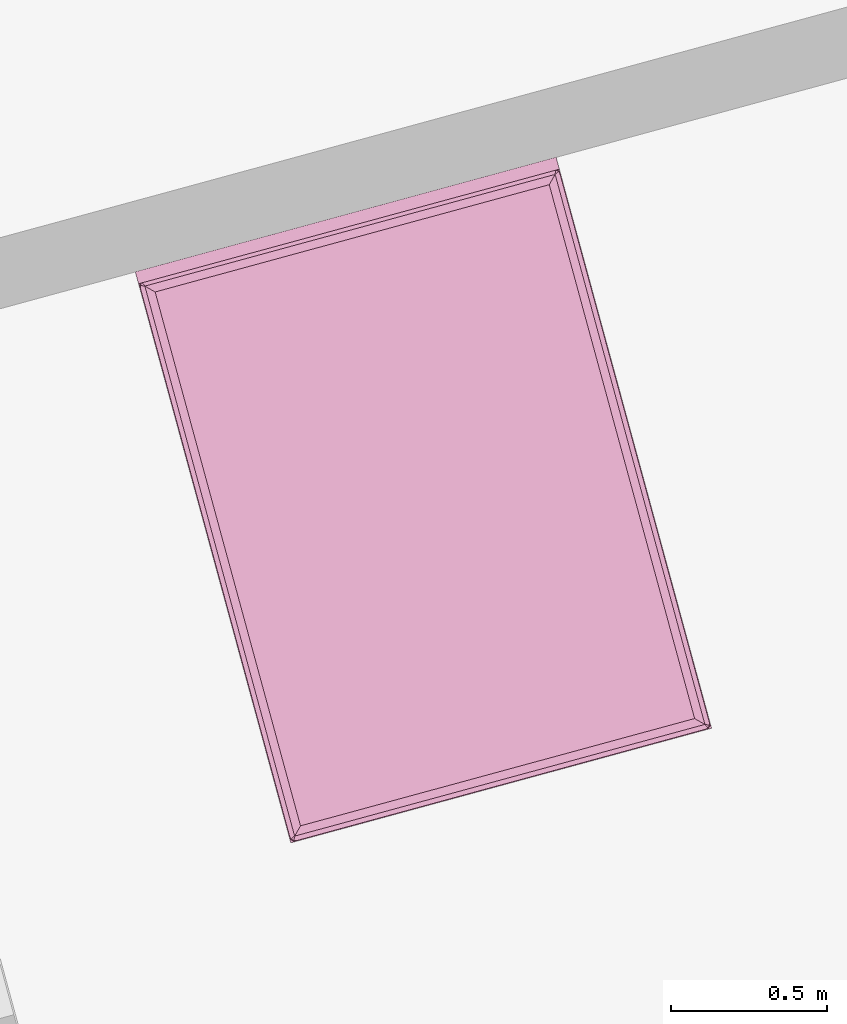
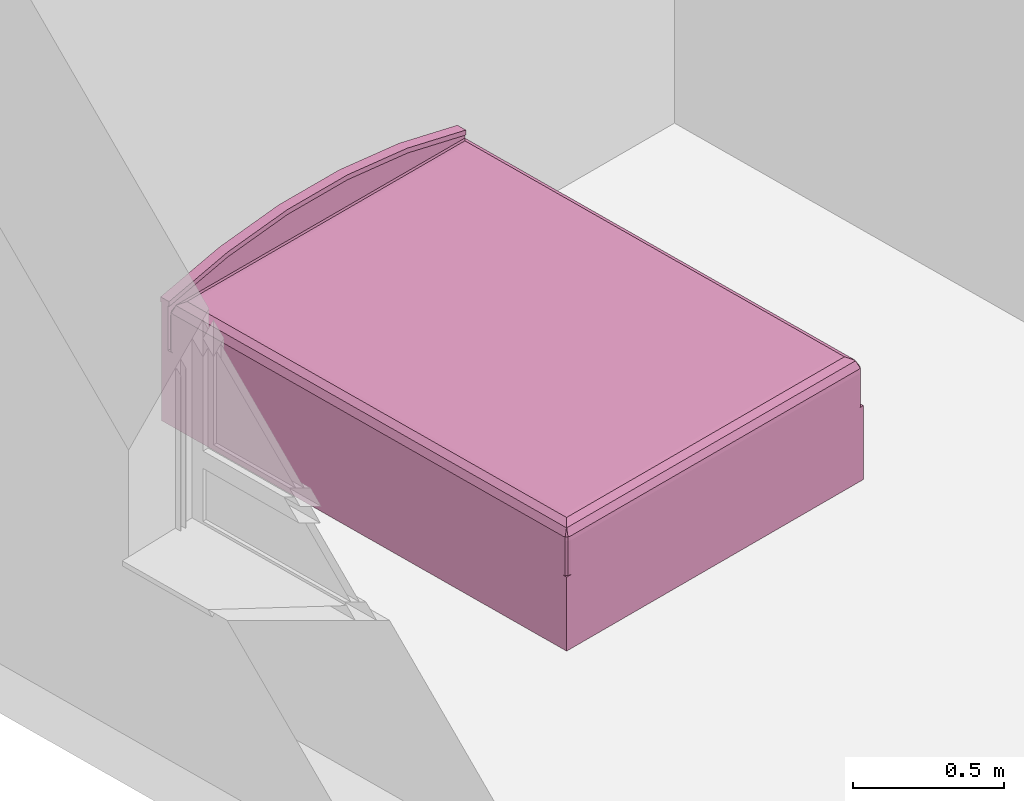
# One storey, part 161 of 195: 1 furnishing.
"""IFC2X3 building model written with IfcOpenShell, lengths in metres."""

from ifc_helpers import new_model, entity, si_unit, converted_unit, derived_unit, money_unit, direction, frame, origin_with_axes, place, context, subcontext, project, spatial, faceted_brep, source, transform, mapped, type_object, element, save


model = new_model("IFC2X3")

# Units and contexts
model_context = context("Model", 3, precision=1e-05, world=origin_with_axes(), true_north=direction((0.0, 1.0)))
body_context = subcontext(model_context, "Body", "Model", "MODEL_VIEW")
ifc_project = project(units=[si_unit("LENGTHUNIT", "METRE"), si_unit("AREAUNIT", "SQUARE_METRE"), si_unit("VOLUMEUNIT", "CUBIC_METRE"), converted_unit("PLANEANGLEUNIT", "DEGREE", entity("IfcPlaneAngleMeasure", 0.0174532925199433), si_unit("PLANEANGLEUNIT", "RADIAN"), dimensions=[0, 0, 0, 0, 0, 0, 0]), money_unit("CHF"), converted_unit("TIMEUNIT", "Year", entity("IfcTimeMeasure", 31557600.0), si_unit("TIMEUNIT", "SECOND"), dimensions=[0, 0, 1, 0, 0, 0, 0]), si_unit("MASSUNIT", "GRAM", prefix="KILO"), si_unit("THERMODYNAMICTEMPERATUREUNIT", "DEGREE_CELSIUS"), si_unit("LUMINOUSINTENSITYUNIT", "LUMEN"), si_unit("ENERGYUNIT", "JOULE", prefix="MEGA"), derived_unit("THERMALCONDUCTANCEUNIT", [(si_unit("POWERUNIT", "WATT"), 1), (si_unit("LENGTHUNIT", "METRE"), -1), (si_unit("THERMODYNAMICTEMPERATUREUNIT", "KELVIN"), -1)]), derived_unit("SPECIFICHEATCAPACITYUNIT", [(si_unit("ENERGYUNIT", "JOULE"), 1), (si_unit("MASSUNIT", "GRAM", prefix="KILO"), -1), (si_unit("THERMODYNAMICTEMPERATUREUNIT", "KELVIN"), -1)]), derived_unit("MASSDENSITYUNIT", [(si_unit("MASSUNIT", "GRAM", prefix="KILO"), 1), (si_unit("VOLUMEUNIT", "CUBIC_METRE"), -1)])], contexts=[model_context])

# Site, building, storey
site_placement = place(None, origin_with_axes())
site = spatial("IfcSite", under=ifc_project, at=site_placement, Name="Site", CompositionType="ELEMENT")
building_placement = place(site_placement, origin_with_axes())
building = spatial("IfcBuilding", under=site, at=building_placement, Name="Bâtiment", CompositionType="ELEMENT")
storey_placement = place(building_placement, origin_with_axes())
storey = spatial("IfcBuildingStorey", under=building, at=storey_placement, Name="rdc", CompositionType="ELEMENT", Elevation=0.0)

# Furnishing
furnishing_element_type = type_object("IfcFurnishingElementType", Name="Lit double 01")
shared_shape = source(origin_with_axes(), body_context, "Body", "Brep", [
    faceted_brep([(0.0, 1.895, 0.0), (1.4, 1.895, 0.0), (1.4, 1.865, 0.0), (0.0, 1.865, 0.0), (0.0, 1.895, 0.48), (0.276362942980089, 1.895, 0.5438448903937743), (0.558179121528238, 1.895, 0.5759741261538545), (0.8418208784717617, 1.895, 0.5759741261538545), (1.123637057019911, 1.895, 0.5438448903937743), (1.4, 1.895, 0.48), (1.4, 1.895, 0.4799), (1.4, 1.865, 0.4799), (1.4, 1.865, 0.48), (1.123637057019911, 1.865, 0.5438448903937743), (0.8418208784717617, 1.865, 0.5759741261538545), (0.558179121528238, 1.865, 0.5759741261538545), (0.276362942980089, 1.865, 0.5438448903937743), (0.0, 1.865, 0.48)], [[[0, 1, 2, 3]], [[0, 4, 5, 6, 7, 8, 9, 10, 1]], [[1, 10, 11, 2]], [[3, 2, 11, 12, 13, 14, 15, 16, 17]], [[4, 0, 3, 17]], [[5, 4, 17, 16]], [[6, 5, 16, 15]], [[7, 6, 15, 14]], [[8, 7, 14, 13]], [[9, 8, 13, 12]], [[10, 9, 12, 11]]]),
    faceted_brep([(1.4, 1.9, 0.48), (1.399999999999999, 1.9, 0.4999999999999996), (1.399999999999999, 1.86, 0.4999999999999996), (1.4, 1.86, 0.48), (1.123637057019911, 1.9, 0.5438448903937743), (0.8418208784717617, 1.9, 0.5759741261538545), (0.558179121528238, 1.9, 0.5759741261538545), (0.276362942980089, 1.9, 0.5438448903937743), (0.0, 1.9, 0.48), (0.0, 1.9, 0.4999), (0.0, 1.9, 0.5), (0.276362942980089, 1.9, 0.5638448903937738), (0.5581791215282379, 1.9, 0.5959741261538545), (0.8418208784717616, 1.9, 0.5959741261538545), (1.123637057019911, 1.9, 0.5638448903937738), (1.123637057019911, 1.86, 0.5638448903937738), (0.8418208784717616, 1.86, 0.5959741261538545), (0.5581791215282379, 1.86, 0.5959741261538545), (0.276362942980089, 1.86, 0.5638448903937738), (0.0, 1.86, 0.5), (0.0, 1.86, 0.4999), (0.0, 1.86, 0.48), (0.276362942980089, 1.86, 0.5438448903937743), (0.558179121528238, 1.86, 0.5759741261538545), (0.8418208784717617, 1.86, 0.5759741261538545), (1.123637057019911, 1.86, 0.5438448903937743)], [[[0, 1, 2, 3]], [[0, 4, 5, 6, 7, 8, 9, 10, 11, 12, 13, 14, 1]], [[1, 14, 15, 2]], [[3, 2, 15, 16, 17, 18, 19, 20, 21, 22, 23, 24, 25]], [[4, 0, 3, 25]], [[5, 4, 25, 24]], [[6, 5, 24, 23]], [[7, 6, 23, 22]], [[8, 7, 22, 21]], [[9, 8, 21, 20]], [[10, 9, 20, 19]], [[11, 10, 19, 18]], [[12, 11, 18, 17]], [[13, 12, 17, 16]], [[14, 13, 16, 15]]]),
    faceted_brep([(1.4, 0.0, 0.0), (0.0, 0.0, 0.0), (0.0, 1.865, 0.0), (1.4, 1.865, 0.0), (1.4, 0.0, 0.3), (0.0, 0.0, 0.3), (0.0, 1.865, 0.3), (1.4, 1.865, 0.3)], [[[0, 1, 2, 3]], [[1, 0, 4, 5]], [[2, 1, 5, 6]], [[3, 2, 6, 7]], [[0, 3, 7, 4]], [[5, 4, 7, 6]]]),
    faceted_brep([(0.0, 0.02, 0.43), (0.0, 1.845, 0.43), (0.002679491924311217, 1.855, 0.43), (0.009999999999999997, 1.862320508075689, 0.43), (0.02, 1.865, 0.43), (1.38, 1.865, 0.43), (1.39, 1.862320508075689, 0.43), (1.397320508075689, 1.855, 0.43), (1.4, 1.845, 0.43), (1.4, 0.02, 0.43), (1.397320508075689, 0.009999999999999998, 0.43), (1.39, 0.002679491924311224, 0.43), (1.38, 0.0, 0.43), (0.01999999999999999, 0.0, 0.43), (0.009999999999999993, 0.002679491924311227, 0.43), (0.002679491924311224, 0.01, 0.43), (-3.895163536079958e-10, 0.02000000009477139, 0.44), (-3.895163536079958e-10, 1.845000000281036, 0.44), (0.002679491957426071, 1.855000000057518, 0.44), (0.0100000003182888, 1.862320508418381, 0.44), (0.02000000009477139, 1.864999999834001, 0.44), (1.380000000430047, 1.864999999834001, 0.44), (1.39000000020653, 1.862320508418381, 0.44), (1.39732050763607, 1.855000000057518, 0.44), (1.399999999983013, 1.845000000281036, 0.44), (1.399999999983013, 0.02000000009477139, 0.44), (1.39732050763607, 0.0100000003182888, 0.44), (1.39000000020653, 0.002679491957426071, 0.44), (1.380000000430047, -3.895163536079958e-10, 0.44), (0.02000000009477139, -3.895163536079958e-10, 0.44), (0.0100000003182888, 0.002679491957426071, 0.44), (0.002679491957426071, 0.0100000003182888, 0.44), (0.002044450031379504, 0.02026915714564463, 0.4555291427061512), (0.002044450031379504, 1.844730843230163, 0.4555291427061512), (0.004512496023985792, 1.853941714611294, 0.4555291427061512), (0.01105828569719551, 1.860487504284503, 0.4555291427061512), (0.02026915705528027, 1.862955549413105, 0.4555291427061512), (1.379730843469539, 1.862955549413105, 0.4555291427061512), (1.388941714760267, 1.860487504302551, 0.4555291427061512), (1.395487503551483, 1.853941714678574, 0.4555291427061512), (1.397955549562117, 1.844730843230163, 0.4555291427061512), (1.397955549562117, 0.02026915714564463, 0.4555291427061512), (1.395487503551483, 0.01105828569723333, 0.4555291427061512), (1.388941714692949, 0.004512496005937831, 0.4555291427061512), (1.379730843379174, 0.002044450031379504, 0.4555291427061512), (0.02026915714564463, 0.002044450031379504, 0.4555291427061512), (0.01105828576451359, 0.004512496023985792, 0.4555291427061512), (0.004512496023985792, 0.01105828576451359, 0.4555291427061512), (0.01757359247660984, 0.02231360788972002, 0.4824264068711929), (0.01757359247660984, 1.842686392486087, 0.4824264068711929), (0.01843554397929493, 1.845903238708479, 0.4824264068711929), (0.01909676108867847, 1.846564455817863, 0.4824264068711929), (0.02231360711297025, 1.847426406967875, 0.4824264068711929), (1.377686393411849, 1.847426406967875, 0.4824264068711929), (1.380903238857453, 1.846564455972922, 0.4824264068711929), (1.381564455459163, 1.845903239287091, 0.4824264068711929), (1.382426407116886, 1.842686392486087, 0.4824264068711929), (1.382426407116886, 0.02231360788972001, 0.4824264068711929), (1.381564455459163, 0.01909676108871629, 0.4824264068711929), (1.380903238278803, 0.01843554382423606, 0.4824264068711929), (1.377686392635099, 0.01757359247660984, 0.4824264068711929), (0.02231360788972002, 0.01757359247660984, 0.4824264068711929), (0.01909676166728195, 0.01843554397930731, 0.4824264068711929), (0.01843554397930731, 0.01909676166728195, 0.4824264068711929), (0.02303225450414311, 0.02303225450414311, 0.4855779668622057), (0.04447085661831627, 0.04447085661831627, 0.4979555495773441), (0.04447085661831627, 1.820529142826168, 0.4979555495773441), (0.02303225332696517, 1.841967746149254, 0.48557796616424), (0.02000000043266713, 1.844999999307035, 0.4834338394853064), (1.35552914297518, 1.820529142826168, 0.4979555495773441), (1.376967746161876, 1.841967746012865, 0.4855779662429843), (1.380000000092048, 1.845000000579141, 0.4834338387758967), (1.35552914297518, 0.04447085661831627, 0.4979555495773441), (1.376967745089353, 0.02303225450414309, 0.4855779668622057), (1.379999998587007, 0.02000000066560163, 0.4834338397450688), (0.02000000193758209, 0.02000000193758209, 0.4834338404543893), (0.05999999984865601, 0.05999999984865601, 0.5000000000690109), (0.05999999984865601, 1.804999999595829, 0.5000000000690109), (1.33999999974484, 1.804999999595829, 0.5000000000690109), (1.33999999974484, 0.05999999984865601, 0.5000000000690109)], [[[0, 1, 2, 3, 4, 5, 6, 7, 8, 9, 10, 11, 12, 13, 14, 15]], [[1, 0, 16, 17]], [[2, 1, 17, 18]], [[3, 2, 18, 19]], [[4, 3, 19, 20]], [[5, 4, 20, 21]], [[6, 5, 21, 22]], [[7, 6, 22, 23]], [[8, 7, 23, 24]], [[9, 8, 24, 25]], [[10, 9, 25, 26]], [[11, 10, 26, 27]], [[12, 11, 27, 28]], [[13, 12, 28, 29]], [[14, 13, 29, 30]], [[15, 14, 30, 31]], [[0, 15, 31, 16]], [[17, 16, 32, 33]], [[18, 17, 33, 34]], [[19, 18, 34, 35]], [[20, 19, 35, 36]], [[21, 20, 36, 37]], [[22, 21, 37, 38]], [[23, 22, 38, 39]], [[24, 23, 39, 40]], [[25, 24, 40, 41]], [[26, 25, 41, 42]], [[27, 26, 42, 43]], [[28, 27, 43, 44]], [[29, 28, 44, 45]], [[30, 29, 45, 46]], [[31, 30, 46, 47]], [[16, 31, 47, 32]], [[33, 32, 48, 49]], [[34, 33, 49, 50]], [[35, 34, 50, 51]], [[36, 35, 51, 52]], [[37, 36, 52, 53]], [[38, 37, 53, 54]], [[39, 38, 54, 55]], [[40, 39, 55, 56]], [[41, 40, 56, 57]], [[42, 41, 57, 58]], [[43, 42, 58, 59]], [[44, 43, 59, 60]], [[45, 44, 60, 61]], [[46, 45, 61, 62]], [[47, 46, 62, 63]], [[32, 47, 63, 48]], [[49, 48, 64, 65, 66, 67]], [[50, 49, 67, 68]], [[51, 50, 68]], [[52, 51, 68, 67]], [[53, 52, 67, 66, 69, 70]], [[54, 53, 70, 71]], [[55, 54, 71]], [[56, 55, 71, 70]], [[57, 56, 70, 69, 72, 73]], [[58, 57, 73, 74]], [[59, 58, 74]], [[60, 59, 74, 73]], [[61, 60, 73, 72, 65, 64]], [[62, 61, 64, 75]], [[63, 62, 75]], [[48, 63, 75, 64]], [[66, 65, 76, 77]], [[69, 66, 77, 78]], [[72, 69, 78, 79]], [[65, 72, 79, 76]], [[78, 77, 76, 79]]]),
    faceted_brep([(0.0, 0.02000000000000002, 0.3099999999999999), (-3.895163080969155e-10, 0.02000000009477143, 0.2999999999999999), (0.002679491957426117, 0.01000000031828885, 0.2999999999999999), (0.002679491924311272, 0.01000000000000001, 0.3099999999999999), (0.0, 1.845, 0.3099999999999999), (-3.895163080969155e-10, 1.845000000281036, 0.2999999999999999), (0.002679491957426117, 1.855000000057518, 0.2999999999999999), (0.01000000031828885, 1.862320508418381, 0.2999999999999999), (0.02000000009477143, 1.864999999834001, 0.2999999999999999), (1.380000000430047, 1.864999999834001, 0.2999999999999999), (1.39000000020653, 1.862320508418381, 0.2999999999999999), (1.39732050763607, 1.855000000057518, 0.2999999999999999), (1.399999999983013, 1.845000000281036, 0.2999999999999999), (1.399999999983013, 0.02000000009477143, 0.2999999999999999), (1.39732050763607, 0.01000000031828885, 0.2999999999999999), (1.39000000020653, 0.002679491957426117, 0.2999999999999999), (1.380000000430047, -3.895163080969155e-10, 0.2999999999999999), (0.02000000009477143, -3.895163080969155e-10, 0.2999999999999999), (0.01000000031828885, 0.002679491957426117, 0.2999999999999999), (0.01000000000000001, 0.002679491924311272, 0.3099999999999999), (0.02000000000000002, 0.0, 0.3099999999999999), (1.38, 0.0, 0.3099999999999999), (1.39, 0.002679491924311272, 0.3099999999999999), (1.397320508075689, 0.01000000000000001, 0.3099999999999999), (1.4, 0.02000000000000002, 0.3099999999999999), (1.4, 1.845, 0.3099999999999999), (1.397320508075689, 1.855, 0.3099999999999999), (1.39, 1.862320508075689, 0.3099999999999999), (1.38, 1.865, 0.3099999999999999), (0.02000000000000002, 1.865, 0.3099999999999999), (0.01000000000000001, 1.862320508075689, 0.3099999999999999), (0.002679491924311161, 1.855, 0.3099999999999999)], [[[0, 1, 2, 3]], [[1, 0, 4, 5]], [[2, 1, 5, 6, 7, 8, 9, 10, 11, 12, 13, 14, 15, 16, 17, 18]], [[3, 2, 18, 19]], [[3, 19, 20, 21, 22, 23, 24, 25, 26, 27, 28, 29, 30, 31, 4, 0]], [[5, 4, 31, 6]], [[6, 31, 30, 7]], [[7, 30, 29, 8]], [[8, 29, 28, 9]], [[27, 10, 9, 28]], [[10, 27, 26, 11]], [[11, 26, 25, 12]], [[24, 13, 12, 25]], [[23, 14, 13, 24]], [[22, 15, 14, 23]], [[21, 16, 15, 22]], [[20, 17, 16, 21]], [[18, 17, 20, 19]]]),
    faceted_brep([(0.0, 0.02, 0.3099999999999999), (0.002679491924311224, 0.01, 0.3099999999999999), (0.002679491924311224, 0.01, 0.4299999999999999), (0.0, 0.02, 0.4299999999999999), (0.0, 1.845, 0.3099999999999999), (0.002679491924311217, 1.855, 0.3099999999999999), (0.009999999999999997, 1.862320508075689, 0.3099999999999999), (0.02, 1.865, 0.3099999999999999), (1.38, 1.865, 0.3099999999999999), (1.39, 1.862320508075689, 0.3099999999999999), (1.397320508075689, 1.855, 0.3099999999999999), (1.4, 1.845, 0.3099999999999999), (1.4, 0.02, 0.3099999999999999), (1.397320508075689, 0.009999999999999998, 0.3099999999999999), (1.39, 0.002679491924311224, 0.3099999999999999), (1.38, 0.0, 0.3099999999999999), (0.01999999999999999, 0.0, 0.3099999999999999), (0.009999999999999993, 0.002679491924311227, 0.3099999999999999), (0.009999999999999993, 0.002679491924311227, 0.4299999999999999), (0.01999999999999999, 0.0, 0.4299999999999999), (1.38, 0.0, 0.4299999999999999), (1.39, 0.002679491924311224, 0.4299999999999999), (1.397320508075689, 0.009999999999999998, 0.4299999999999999), (1.4, 0.02, 0.4299999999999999), (1.4, 1.845, 0.4299999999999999), (1.397320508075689, 1.855, 0.4299999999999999), (1.39, 1.862320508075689, 0.4299999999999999), (1.38, 1.865, 0.4299999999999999), (0.02, 1.865, 0.4299999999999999), (0.009999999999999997, 1.862320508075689, 0.4299999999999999), (0.002679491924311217, 1.855, 0.4299999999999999), (0.0, 1.845, 0.4299999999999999)], [[[0, 1, 2, 3]], [[0, 4, 5, 6, 7, 8, 9, 10, 11, 12, 13, 14, 15, 16, 17, 1]], [[1, 17, 18, 2]], [[3, 2, 18, 19, 20, 21, 22, 23, 24, 25, 26, 27, 28, 29, 30, 31]], [[4, 0, 3, 31]], [[5, 4, 31, 30]], [[6, 5, 30, 29]], [[7, 6, 29, 28]], [[8, 7, 28, 27]], [[9, 8, 27, 26]], [[10, 9, 26, 25]], [[11, 10, 25, 24]], [[12, 11, 24, 23]], [[13, 12, 23, 22]], [[14, 13, 22, 21]], [[15, 14, 21, 20]], [[16, 15, 20, 19]], [[17, 16, 19, 18]]]),
])
furnishing_placement = place(storey_placement, frame((9588.264119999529, -1048.764908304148, 57.7), z_axis=(0.0, 0.0, 1.0), x_axis=(0.9648682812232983, 0.2627340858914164, 0.0)))
element("IfcFurnishingElement", 1, at=furnishing_placement, inside=storey, type_object=furnishing_element_type, Name="Obj.-002", context=body_context, shape_type="MappedRepresentation", body=[
    mapped(shared_shape, transform((0.0, 0.0, 0.0))),
])

save(model, "model.ifc")
